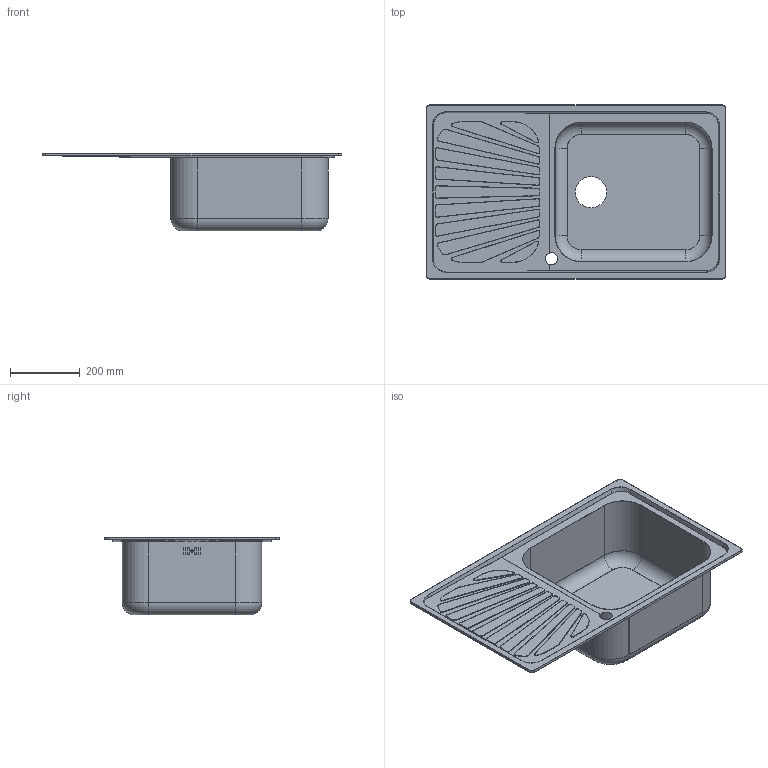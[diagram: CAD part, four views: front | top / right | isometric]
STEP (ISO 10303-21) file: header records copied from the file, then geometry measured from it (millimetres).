
FILE_DESCRIPTION(('CATIA V5 STEP Exchange'),'2;1');
FILE_NAME('C:\Users\linop\Desktop\SG861D.stp','2018-05-29T13:36:21+00:00',('none'),('none'),'CATIA Version 5-6 Release 2014','CATIA V5 STEP AP203','none');
FILE_SCHEMA(('CONFIG_CONTROL_DESIGN'));
Length unit declared in the file: millimetre
Products named in the file (1): SG861D
Bounding box: 860 x 500 x 223.6 mm (x, y, z)
Volume: 516892.4 mm3; surface area: 1568821.4 mm2
Topology: 2 solids, 2 shells, 310 faces, 830 edges, 548 vertices
Faces by surface type: plane 152, cylinder 142, cone 8, torus 8
Entity records: 9315 total; most frequent: CARTESIAN_POINT 1855, ORIENTED_EDGE 1660, DIRECTION 1266, EDGE_CURVE 830, VERTEX_POINT 548, AXIS2_PLACEMENT_3D 535, VECTOR 483, LINE 483
